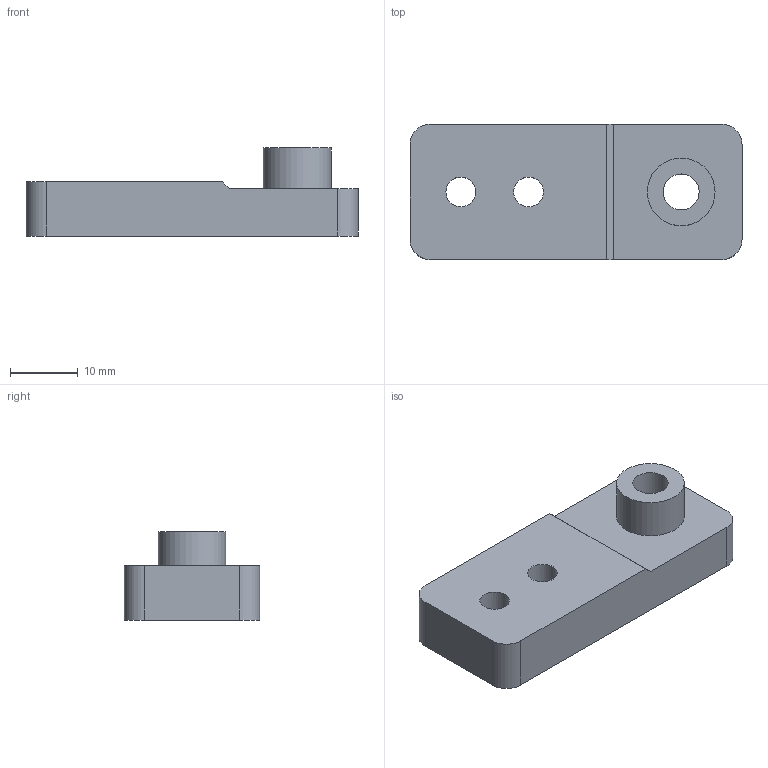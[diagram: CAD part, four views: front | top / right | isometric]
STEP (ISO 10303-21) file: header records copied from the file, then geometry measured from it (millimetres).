
FILE_DESCRIPTION(/* description */ (''),/* implementation_level */ '2;1');
FILE_NAME(/* name */ 'X Pulley Plate.step',/* time_stamp */ '2025-04-22T12:34:48+05:30',/* author */ (''),/* organization */ (''),/* preprocessor_version */ 'ST-DEVELOPER v20.1',/* originating_system */ 'Autodesk Translation Framework v14.4.0.0',/* authorisation */ '');
FILE_SCHEMA (('AUTOMOTIVE_DESIGN { 1 0 10303 214 3 1 1 }'));
Length unit declared in the file: millimetre
Products named in the file (1): X Pulley Plate
Bounding box: 49 x 20 x 13 mm (x, y, z)
Volume: 7333.2 mm3; surface area: 3480.4 mm2
Topology: 1 solids, 1 shells, 17 faces, 42 edges, 28 vertices
Faces by surface type: plane 9, cylinder 8
Full cylindrical faces by diameter (mm): 4.4 x2, 5.3 x1, 10 x1
Entity records: 564 total; most frequent: DIRECTION 94, CARTESIAN_POINT 88, ORIENTED_EDGE 84, EDGE_CURVE 42, AXIS2_PLACEMENT_3D 34, VERTEX_POINT 28, LINE 26, VECTOR 26
